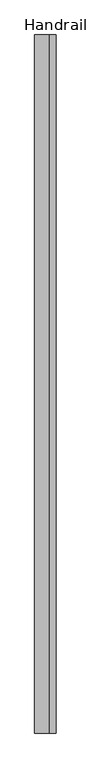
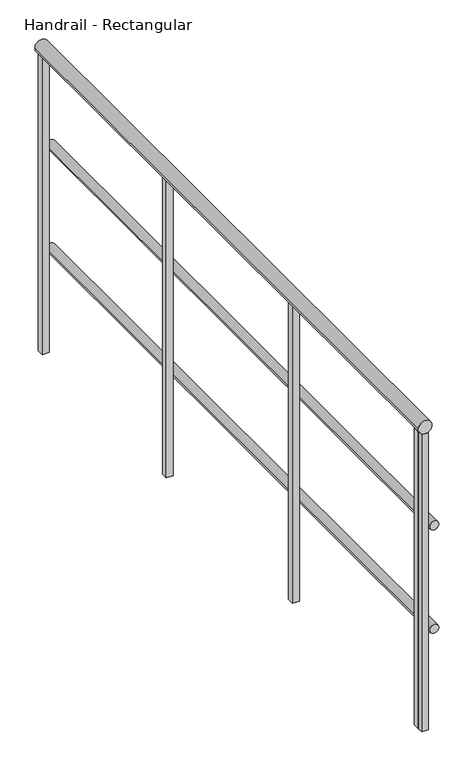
"""IFC4 building model written with IfcOpenShell, lengths in millimetres: railing geometry, Handrail - Rectangular."""

from ifc_helpers import new_model, si_unit, point, frame, frame_2d, origin, place, context, project, spatial, polyline, circle_curve, trimmed, segment, composite_curve, outline, extrude, source, transform, mapped, element, save


def handrail_rectangular_59770213(model_context):
    return source(origin(), model_context, "Body", "SweptSolid", [
        extrude(outline(composite_curve([segment(trimmed(circle_curve(frame_2d((3644.9, 2322.5410437)), 12.7), [point((3644.9, 2335.2410437))], [point((3644.9, 2309.8410437))], False, "CARTESIAN"), True, "CONTINUOUS"), segment(trimmed(circle_curve(frame_2d((3644.9, 2322.5410437)), 12.7), [point((3644.9, 2309.8410437))], [point((3644.9, 2335.2410437))], False, "CARTESIAN"), True, "CONTINUOUS")], self_intersect=False)), frame((0.0, 4578.8316867, 0.0), z_axis=(0.0, 1.0, 0.0), x_axis=(0.0, 0.0, 1.0)), (0.0, 0.0, 1.0), 1854.2),
        extrude(outline(composite_curve([segment(trimmed(circle_curve(frame_2d((3340.1, 2322.5410437)), 12.7), [point((3340.1, 2335.2410437))], [point((3340.1, 2309.8410437))], False, "CARTESIAN"), True, "CONTINUOUS"), segment(trimmed(circle_curve(frame_2d((3340.1, 2322.5410437)), 12.7), [point((3340.1, 2309.8410437))], [point((3340.1, 2335.2410437))], False, "CARTESIAN"), True, "CONTINUOUS")], self_intersect=False)), frame((0.0, 4578.8316867, 0.0), z_axis=(0.0, 1.0, 0.0), x_axis=(0.0, 0.0, 1.0)), (0.0, 0.0, 1.0), 1854.2),
        extrude(outline(composite_curve([segment(trimmed(circle_curve(frame_2d((3943.35, 2297.1410437)), 19.05), [point((3943.35, 2316.1910437))], [point((3943.35, 2278.0910437))], False, "CARTESIAN"), True, "CONTINUOUS"), segment(trimmed(circle_curve(frame_2d((3943.35, 2297.1410437)), 19.05), [point((3943.35, 2278.0910437))], [point((3943.35, 2316.1910437))], False, "CARTESIAN"), True, "CONTINUOUS")], self_intersect=False)), frame((0.0, 4578.8316867, 0.0), z_axis=(0.0, 1.0, 0.0), x_axis=(0.0, 0.0, 1.0)), (0.0, 0.0, 1.0), 1854.2),
        extrude(outline(polyline([(2287.6160437, 4613.7566867), (2306.6660437, 4613.7566867), (2306.6660437, 4594.7066867), (2287.6160437, 4594.7066867), (2287.6160437, 4613.7566867)])), frame((0.0, 0.0, 3048.0), z_axis=(0.0, 0.0, 1.0), x_axis=(1.0, 0.0, 0.0)), (0.0, 0.0, 1.0), 876.3),
        extrude(outline(polyline([(2287.6160437, 5223.3566867), (2306.6660437, 5223.3566867), (2306.6660437, 5204.3066867), (2287.6160437, 5204.3066867), (2287.6160437, 5223.3566867)])), frame((0.0, 0.0, 3048.0), z_axis=(0.0, 0.0, 1.0), x_axis=(1.0, 0.0, 0.0)), (0.0, 0.0, 1.0), 876.3),
        extrude(outline(polyline([(2287.6160437, 5832.9566867), (2306.6660437, 5832.9566867), (2306.6660437, 5813.9066867), (2287.6160437, 5813.9066867), (2287.6160437, 5832.9566867)])), frame((0.0, 0.0, 3048.0), z_axis=(0.0, 0.0, 1.0), x_axis=(1.0, 0.0, 0.0)), (0.0, 0.0, 1.0), 876.3),
        extrude(outline(polyline([(2287.6160437, 4597.8816867), (2306.6660437, 4597.8816867), (2306.6660437, 4578.8316867), (2287.6160437, 4578.8316867), (2287.6160437, 4597.8816867)])), frame((0.0, 0.0, 3048.0), z_axis=(0.0, 0.0, 1.0), x_axis=(1.0, 0.0, 0.0)), (0.0, 0.0, 1.0), 876.3),
        extrude(outline(polyline([(2287.6160437, 6433.0316867), (2306.6660437, 6433.0316867), (2306.6660437, 6413.9816867), (2287.6160437, 6413.9816867), (2287.6160437, 6433.0316867)])), frame((0.0, 0.0, 3048.0), z_axis=(0.0, 0.0, 1.0), x_axis=(1.0, 0.0, 0.0)), (0.0, 0.0, 1.0), 876.3),
    ])


if __name__ == "__main__":
    model = new_model("IFC4")
    model_context = context("Model", 3, world=origin())
    ifc_project = project(units=[si_unit("LENGTHUNIT", "METRE", prefix="MILLI")], contexts=[model_context])
    site = spatial("IfcSite", under=ifc_project)
    building = spatial("IfcBuilding", under=site)
    placement = place(None, origin())
    handrail_rectangular_shape = handrail_rectangular_59770213(model_context)
    element("IfcRailing", 1, ObjectType="Handrail - Rectangular", at=placement, inside=building, context=model_context, shape_type="MappedRepresentation", body=[
        mapped(handrail_rectangular_shape, transform((0.0, 0.0, 0.0), x_axis=(1.0, 0.0, 0.0), y_axis=(0.0, 1.0, 0.0), z_axis=(0.0, 0.0, 1.0))),
    ])
    save(model, "model.ifc")
